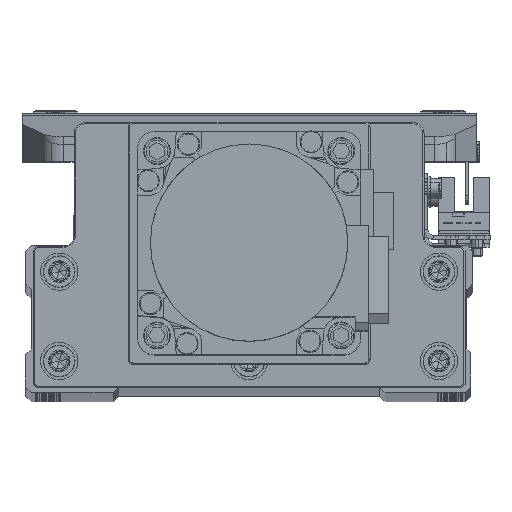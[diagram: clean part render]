
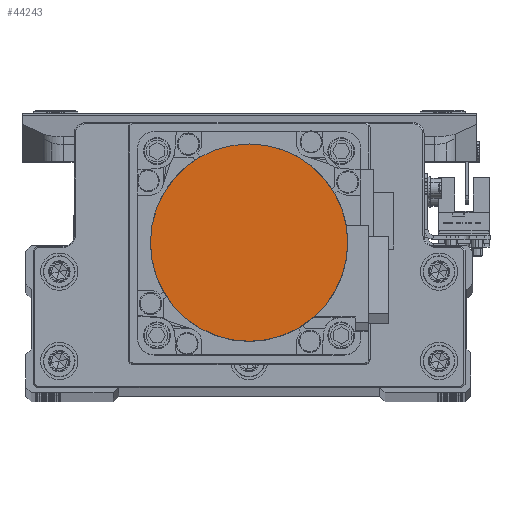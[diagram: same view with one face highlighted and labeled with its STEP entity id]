
A CAD part, top view. The second image highlights one B-rep face of the part: STEP entity #44243.
In plain terms, the highlighted planar face has unit normal (0, 0, 1) as drawn and (0, 0, -1) by its records, which use the part's own axes.
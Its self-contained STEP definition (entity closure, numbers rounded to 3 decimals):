
#480 = DIRECTION ( 'NONE',  ( 0., 0., 1. ) ) ;
#4109 = CARTESIAN_POINT ( 'NONE',  ( 0., 0., -109.7 ) ) ;
#4988 = EDGE_CURVE ( 'NONE', #43940, #41551, #37480, .T. ) ;
#6449 = AXIS2_PLACEMENT_3D ( 'NONE', #34201, #480, #15508 ) ;
#9662 = ORIENTED_EDGE ( 'NONE', *, *, #4988, .F. ) ;
#10388 = CARTESIAN_POINT ( 'NONE',  ( 0., 0., -109.7 ) ) ;
#15508 = DIRECTION ( 'NONE',  ( 1., 0., 0. ) ) ;
#16264 = AXIS2_PLACEMENT_3D ( 'NONE', #4109, #19117, #34126 ) ;
#19117 = DIRECTION ( 'NONE',  ( 0., 0., 1. ) ) ;
#20566 = AXIS2_PLACEMENT_3D ( 'NONE', #10388, #25425, #40415 ) ;
#25425 = DIRECTION ( 'NONE',  ( 0., 0., 1. ) ) ;
#27706 = CIRCLE ( 'NONE', #6449, 26.5 ) ;
#29125 = FACE_OUTER_BOUND ( 'NONE', #40641, .T. ) ;
#30381 = CARTESIAN_POINT ( 'NONE',  ( -26.5, 0., -109.7 ) ) ;
#31851 = CARTESIAN_POINT ( 'NONE',  ( 26.5, 0., -109.7 ) ) ;
#33672 = ORIENTED_EDGE ( 'NONE', *, *, #46129, .F. ) ;
#34126 = DIRECTION ( 'NONE',  ( -1., 0., 0. ) ) ;
#34201 = CARTESIAN_POINT ( 'NONE',  ( 0., 0., -109.7 ) ) ;
#37480 = CIRCLE ( 'NONE', #16264, 26.5 ) ;
#40415 = DIRECTION ( 'NONE',  ( 1., 0., 0. ) ) ;
#40641 = EDGE_LOOP ( 'NONE', ( #9662, #33672 ) ) ;
#41551 = VERTEX_POINT ( 'NONE', #31851 ) ;
#43940 = VERTEX_POINT ( 'NONE', #30381 ) ;
#44108 = PLANE ( 'NONE',  #20566 ) ;
#44243 = ADVANCED_FACE ( 'NONE', ( #29125 ), #44108, .F. ) ;
#46129 = EDGE_CURVE ( 'NONE', #41551, #43940, #27706, .T. ) ;
